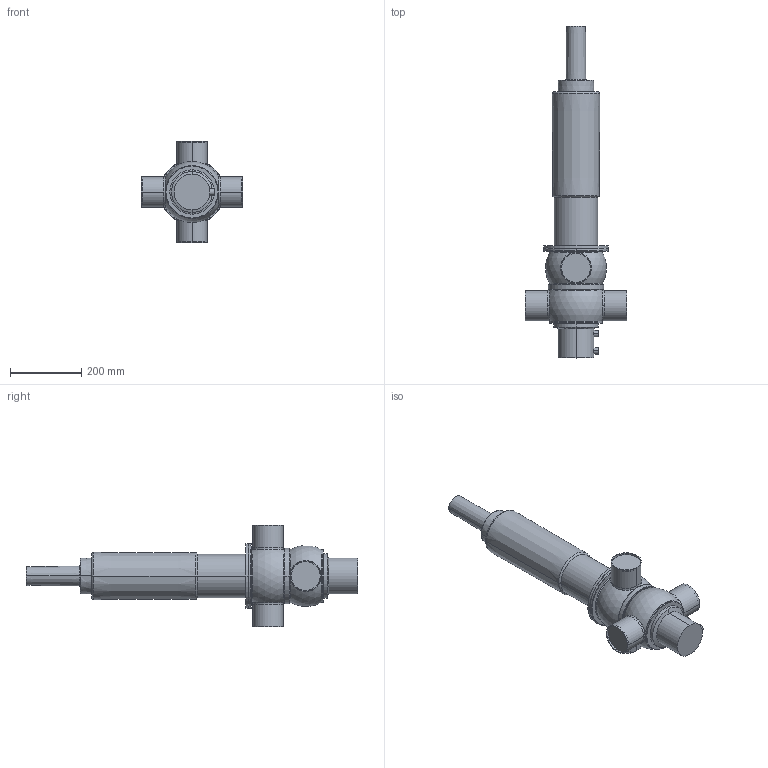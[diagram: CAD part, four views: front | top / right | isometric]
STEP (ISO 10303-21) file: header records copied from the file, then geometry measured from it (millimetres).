
FILE_DESCRIPTION(('Creo Elements/Direct Modeling STEP Export'),'2;1');
FILE_NAME('DA44-80_prox..stp','2019-09-04T15:31:04',(''),(''),'PTC Creo Elements/Direct Modeling STEP processor for AP214 (Solid Model)','PTC Creo Elements/Direct Modeling 19.0B 21-Mar-2015 (C) Parametric Technology GmbH','');
FILE_SCHEMA(('AUTOMOTIVE_DESIGN { 1 0 10303 214 1 1 1 1 }'));
Length unit declared in the file: millimetre
Products named in the file (5): actuator_DA4-125_yoke; D4_Prox._holder.; drain_pipe_92; housing_DA44-80; DA44-80_prox.
Assembly tree (4 placements, depth 2):
  DA44-80_prox.
    housing_DA44-80
    drain_pipe_92
    D4_Prox._holder.
    actuator_DA4-125_yoke
Bounding box: 285 x 930.5 x 285 mm (x, y, z)
Volume: 13011987.5 mm3; surface area: 589259.5 mm2
Topology: 4 solids, 4 shells, 135 faces, 287 edges, 174 vertices
Faces by surface type: cylinder 48, torus 40, plane 28, cone 14, sphere 5
Entity records: 4196 total; most frequent: CARTESIAN_POINT 1376, DIRECTION 578, ORIENTED_EDGE 570, EDGE_CURVE 285, AXIS2_PLACEMENT_3D 258, VERTEX_POINT 174, EDGE_LOOP 151, FACE_OUTER_BOUND 135
